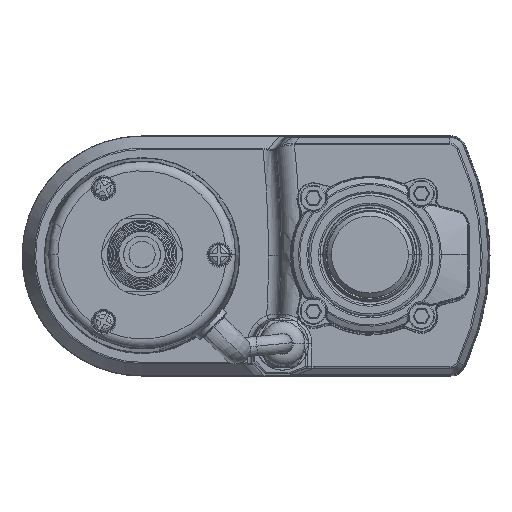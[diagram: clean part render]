
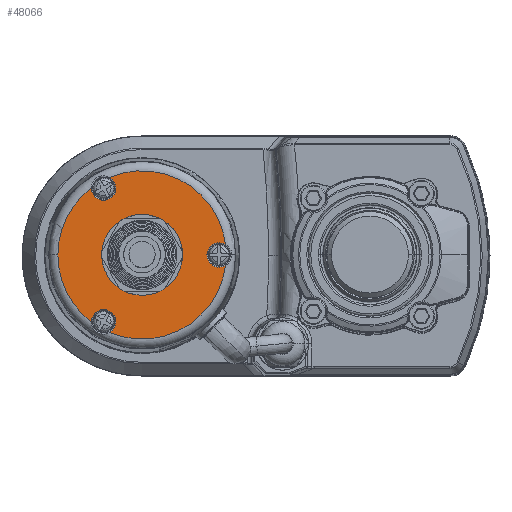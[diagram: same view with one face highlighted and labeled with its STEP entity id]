
A CAD part, top view. The second image highlights one B-rep face of the part: STEP entity #48066.
In plain terms, the highlighted planar face has unit normal (0, 0, 1).
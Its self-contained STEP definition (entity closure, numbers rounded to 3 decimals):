
#1345 = EDGE_LOOP ( 'NONE', ( #19003, #27212 ) ) ;
#1543 = CIRCLE ( 'NONE', #59711, 27.335 ) ;
#1558 = VERTEX_POINT ( 'NONE', #41612 ) ;
#1733 = EDGE_CURVE ( 'NONE', #31612, #23077, #33488, .T. ) ;
#1824 = PLANE ( 'NONE',  #55192 ) ;
#2281 = CIRCLE ( 'NONE', #40688, 3.947 ) ;
#2770 = CARTESIAN_POINT ( 'NONE',  ( 0., 0., 225.2 ) ) ;
#4400 = DIRECTION ( 'NONE',  ( -1., 0., 0. ) ) ;
#4834 = ORIENTED_EDGE ( 'NONE', *, *, #45330, .T. ) ;
#6740 = DIRECTION ( 'NONE',  ( -1., 0., 0. ) ) ;
#6864 = AXIS2_PLACEMENT_3D ( 'NONE', #55365, #14255, #9336 ) ;
#7468 = CARTESIAN_POINT ( 'NONE',  ( -12.5, -21.651, 225.2 ) ) ;
#8037 = EDGE_CURVE ( 'NONE', #46485, #31612, #31891, .T. ) ;
#8258 = EDGE_CURVE ( 'NONE', #33303, #9126, #20608, .T. ) ;
#8771 = CIRCLE ( 'NONE', #10273, 3.947 ) ;
#9126 = VERTEX_POINT ( 'NONE', #59890 ) ;
#9336 = DIRECTION ( 'NONE',  ( -1., 0., 0. ) ) ;
#10265 = CIRCLE ( 'NONE', #38630, 27.335 ) ;
#10273 = AXIS2_PLACEMENT_3D ( 'NONE', #42641, #52359, #31927 ) ;
#10512 = CARTESIAN_POINT ( 'NONE',  ( 21.053, 0., 225.2 ) ) ;
#11055 = DIRECTION ( 'NONE',  ( 0., 0., -1. ) ) ;
#11072 = CARTESIAN_POINT ( 'NONE',  ( -10.69, 25.158, 225.2 ) ) ;
#11384 = DIRECTION ( 'NONE',  ( -1., 0., 0. ) ) ;
#11540 = DIRECTION ( 'NONE',  ( 0., 0., -1. ) ) ;
#12077 = ORIENTED_EDGE ( 'NONE', *, *, #14291, .T. ) ;
#12375 = DIRECTION ( 'NONE',  ( -1., 0., 0. ) ) ;
#13171 = CIRCLE ( 'NONE', #54678, 3.947 ) ;
#14255 = DIRECTION ( 'NONE',  ( 0., 0., -1. ) ) ;
#14291 = EDGE_CURVE ( 'NONE', #1558, #46485, #28190, .T. ) ;
#14817 = CARTESIAN_POINT ( 'NONE',  ( 0., 0., 225.2 ) ) ;
#16545 = FACE_BOUND ( 'NONE', #1345, .T. ) ;
#17184 = ORIENTED_EDGE ( 'NONE', *, *, #25666, .T. ) ;
#17309 = DIRECTION ( 'NONE',  ( -1., 0., 0. ) ) ;
#17376 = DIRECTION ( 'NONE',  ( 0., 0., 1. ) ) ;
#18400 = EDGE_CURVE ( 'NONE', #39855, #22074, #40873, .T. ) ;
#19003 = ORIENTED_EDGE ( 'NONE', *, *, #18400, .F. ) ;
#20483 = ORIENTED_EDGE ( 'NONE', *, *, #37664, .T. ) ;
#20608 = CIRCLE ( 'NONE', #40046, 3.947 ) ;
#21102 = CARTESIAN_POINT ( 'NONE',  ( -12.5, 21.651, 225.2 ) ) ;
#21207 = CARTESIAN_POINT ( 'NONE',  ( 27.133, -3.321, 225.2 ) ) ;
#22074 = VERTEX_POINT ( 'NONE', #23919 ) ;
#22927 = DIRECTION ( 'NONE',  ( -1., 0., 0. ) ) ;
#23077 = VERTEX_POINT ( 'NONE', #10512 ) ;
#23460 = AXIS2_PLACEMENT_3D ( 'NONE', #32235, #50257, #34980 ) ;
#23875 = ORIENTED_EDGE ( 'NONE', *, *, #34531, .T. ) ;
#23919 = CARTESIAN_POINT ( 'NONE',  ( 11.8, 0., 225.2 ) ) ;
#25666 = EDGE_CURVE ( 'NONE', #50023, #41816, #55157, .T. ) ;
#25821 = EDGE_CURVE ( 'NONE', #66381, #33303, #44664, .T. ) ;
#26417 = AXIS2_PLACEMENT_3D ( 'NONE', #54124, #38611, #12375 ) ;
#26747 = CARTESIAN_POINT ( 'NONE',  ( -12.5, 21.651, 225.2 ) ) ;
#27212 = ORIENTED_EDGE ( 'NONE', *, *, #47508, .F. ) ;
#28190 = CIRCLE ( 'NONE', #6864, 3.947 ) ;
#29392 = EDGE_LOOP ( 'NONE', ( #54045, #32310, #41478, #40302, #17184, #4834, #23875, #42990, #12077, #31228, #61820, #20483 ) ) ;
#30527 = DIRECTION ( 'NONE',  ( 0., 0., 1. ) ) ;
#31228 = ORIENTED_EDGE ( 'NONE', *, *, #8037, .T. ) ;
#31612 = VERTEX_POINT ( 'NONE', #21207 ) ;
#31891 = CIRCLE ( 'NONE', #58154, 27.335 ) ;
#31927 = DIRECTION ( 'NONE',  ( -1., 0., 0. ) ) ;
#32235 = CARTESIAN_POINT ( 'NONE',  ( 25., 0., 225.2 ) ) ;
#32310 = ORIENTED_EDGE ( 'NONE', *, *, #25821, .T. ) ;
#33303 = VERTEX_POINT ( 'NONE', #41915 ) ;
#33483 = DIRECTION ( 'NONE',  ( 0., 0., -1. ) ) ;
#33488 = CIRCLE ( 'NONE', #23460, 3.947 ) ;
#34531 = EDGE_CURVE ( 'NONE', #39818, #52193, #2281, .T. ) ;
#34980 = DIRECTION ( 'NONE',  ( -1., 0., 0. ) ) ;
#35134 = DIRECTION ( 'NONE',  ( 0., 0., 1. ) ) ;
#35929 = DIRECTION ( 'NONE',  ( -1., 0., 0. ) ) ;
#36694 = CARTESIAN_POINT ( 'NONE',  ( 25., 0., 225.2 ) ) ;
#37082 = CARTESIAN_POINT ( 'NONE',  ( -12.5, 21.651, 225.2 ) ) ;
#37664 = EDGE_CURVE ( 'NONE', #23077, #43355, #54297, .T. ) ;
#38102 = AXIS2_PLACEMENT_3D ( 'NONE', #37082, #11540, #57995 ) ;
#38159 = DIRECTION ( 'NONE',  ( 0., 0., -1. ) ) ;
#38611 = DIRECTION ( 'NONE',  ( 0., 0., 1. ) ) ;
#38630 = AXIS2_PLACEMENT_3D ( 'NONE', #61125, #50342, #49889 ) ;
#38636 = CARTESIAN_POINT ( 'NONE',  ( 27.133, 3.321, 225.2 ) ) ;
#39612 = AXIS2_PLACEMENT_3D ( 'NONE', #40733, #35134, #4400 ) ;
#39818 = VERTEX_POINT ( 'NONE', #56786 ) ;
#39855 = VERTEX_POINT ( 'NONE', #62152 ) ;
#40046 = AXIS2_PLACEMENT_3D ( 'NONE', #26747, #11055, #35929 ) ;
#40302 = ORIENTED_EDGE ( 'NONE', *, *, #65347, .T. ) ;
#40391 = DIRECTION ( 'NONE',  ( 1., 0., 0. ) ) ;
#40688 = AXIS2_PLACEMENT_3D ( 'NONE', #7468, #33483, #22927 ) ;
#40733 = CARTESIAN_POINT ( 'NONE',  ( 0., 0., 225.2 ) ) ;
#40873 = CIRCLE ( 'NONE', #26417, 11.8 ) ;
#41381 = FACE_OUTER_BOUND ( 'NONE', #29392, .T. ) ;
#41478 = ORIENTED_EDGE ( 'NONE', *, *, #8258, .T. ) ;
#41589 = CARTESIAN_POINT ( 'NONE',  ( -16.447, -21.651, 225.2 ) ) ;
#41612 = CARTESIAN_POINT ( 'NONE',  ( -8.553, -21.651, 225.2 ) ) ;
#41816 = VERTEX_POINT ( 'NONE', #52168 ) ;
#41915 = CARTESIAN_POINT ( 'NONE',  ( -8.553, 21.651, 225.2 ) ) ;
#42641 = CARTESIAN_POINT ( 'NONE',  ( -12.5, -21.651, 225.2 ) ) ;
#42990 = ORIENTED_EDGE ( 'NONE', *, *, #44261, .T. ) ;
#43355 = VERTEX_POINT ( 'NONE', #38636 ) ;
#43369 = CARTESIAN_POINT ( 'NONE',  ( 0., 0., 225.2 ) ) ;
#43803 = DIRECTION ( 'NONE',  ( 0., 0., 1. ) ) ;
#44039 = DIRECTION ( 'NONE',  ( 1., 0., 0. ) ) ;
#44261 = EDGE_CURVE ( 'NONE', #52193, #1558, #8771, .T. ) ;
#44664 = CIRCLE ( 'NONE', #38102, 3.947 ) ;
#44999 = AXIS2_PLACEMENT_3D ( 'NONE', #2770, #43803, #44039 ) ;
#45330 = EDGE_CURVE ( 'NONE', #41816, #39818, #10265, .T. ) ;
#46485 = VERTEX_POINT ( 'NONE', #46754 ) ;
#46754 = CARTESIAN_POINT ( 'NONE',  ( -10.69, -25.158, 225.2 ) ) ;
#46866 = AXIS2_PLACEMENT_3D ( 'NONE', #36694, #52453, #11384 ) ;
#47508 = EDGE_CURVE ( 'NONE', #22074, #39855, #59146, .T. ) ;
#48066 = ADVANCED_FACE ( 'NONE', ( #16545, #41381 ), #1824, .F. ) ;
#48853 = CARTESIAN_POINT ( 'NONE',  ( -16.443, 21.837, 225.2 ) ) ;
#49889 = DIRECTION ( 'NONE',  ( 1., 0., 0. ) ) ;
#50023 = VERTEX_POINT ( 'NONE', #48853 ) ;
#50257 = DIRECTION ( 'NONE',  ( 0., 0., -1. ) ) ;
#50342 = DIRECTION ( 'NONE',  ( 0., 0., 1. ) ) ;
#52168 = CARTESIAN_POINT ( 'NONE',  ( -27.335, 0., 225.2 ) ) ;
#52193 = VERTEX_POINT ( 'NONE', #41589 ) ;
#52359 = DIRECTION ( 'NONE',  ( 0., 0., -1. ) ) ;
#52453 = DIRECTION ( 'NONE',  ( 0., 0., -1. ) ) ;
#53036 = EDGE_CURVE ( 'NONE', #43355, #66381, #1543, .T. ) ;
#54045 = ORIENTED_EDGE ( 'NONE', *, *, #53036, .T. ) ;
#54124 = CARTESIAN_POINT ( 'NONE',  ( 0., 0., 225.2 ) ) ;
#54297 = CIRCLE ( 'NONE', #46866, 3.947 ) ;
#54678 = AXIS2_PLACEMENT_3D ( 'NONE', #21102, #57034, #6740 ) ;
#55157 = CIRCLE ( 'NONE', #44999, 27.335 ) ;
#55192 = AXIS2_PLACEMENT_3D ( 'NONE', #58837, #38159, #17309 ) ;
#55365 = CARTESIAN_POINT ( 'NONE',  ( -12.5, -21.651, 225.2 ) ) ;
#56786 = CARTESIAN_POINT ( 'NONE',  ( -16.443, -21.837, 225.2 ) ) ;
#57034 = DIRECTION ( 'NONE',  ( 0., 0., -1. ) ) ;
#57995 = DIRECTION ( 'NONE',  ( -1., 0., 0. ) ) ;
#58154 = AXIS2_PLACEMENT_3D ( 'NONE', #43369, #17376, #58899 ) ;
#58837 = CARTESIAN_POINT ( 'NONE',  ( -27.335, 0., 225.2 ) ) ;
#58899 = DIRECTION ( 'NONE',  ( 1., 0., 0. ) ) ;
#59146 = CIRCLE ( 'NONE', #39612, 11.8 ) ;
#59711 = AXIS2_PLACEMENT_3D ( 'NONE', #14817, #30527, #40391 ) ;
#59890 = CARTESIAN_POINT ( 'NONE',  ( -16.447, 21.651, 225.2 ) ) ;
#61125 = CARTESIAN_POINT ( 'NONE',  ( 0., 0., 225.2 ) ) ;
#61820 = ORIENTED_EDGE ( 'NONE', *, *, #1733, .T. ) ;
#62152 = CARTESIAN_POINT ( 'NONE',  ( -11.8, 0., 225.2 ) ) ;
#65347 = EDGE_CURVE ( 'NONE', #9126, #50023, #13171, .T. ) ;
#66381 = VERTEX_POINT ( 'NONE', #11072 ) ;
